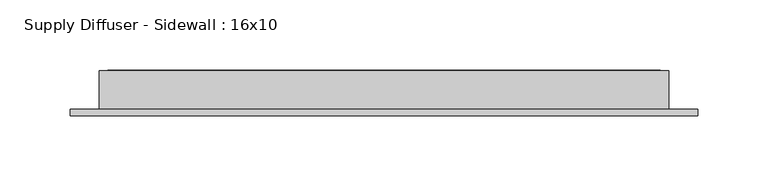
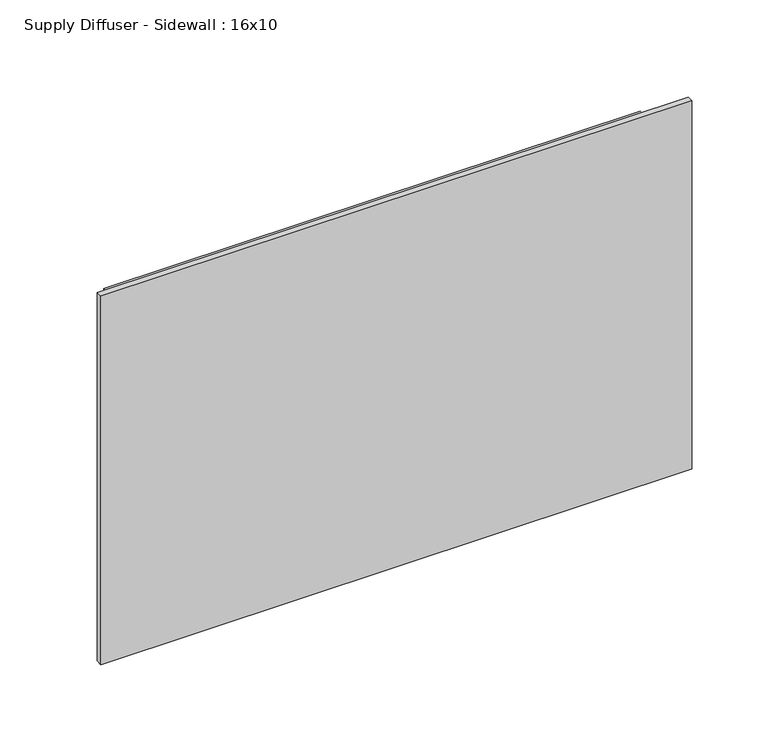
"""IFC4 building model written with IfcOpenShell, lengths in millimetres: air terminal geometry, Supply Diffuser - Sidewall : 16x10."""

from ifc_helpers import new_model, si_unit, origin, place, context, project, spatial, faceted_brep, source, transform, mapped, element, save


def supply_diffuser_sidewall_16x10_d44e3353(model_context):
    return source(origin(), model_context, "Body", "Brep", [
        faceted_brep([(223.8375, -4.7625, 147.6375), (-223.8375, -4.7625, 147.6375), (-223.8375, -4.7625, -147.6375), (223.8375, -4.7625, -147.6375), (223.8375, 0.0, 147.6375), (223.8375, 0.0, -147.6375), (-223.8375, 0.0, -147.6375), (-223.8375, 0.0, 147.6375), (-203.2, 0.0, 127.0), (-203.2, 0.0, -127.0), (203.2, 0.0, -127.0), (203.2, 0.0, 127.0), (-203.2, 27.384375, 127.0), (203.2, 27.384375, 127.0), (203.2, 27.384375, -127.0), (-203.2, 27.384375, -127.0), (-196.85, 27.384375, 120.65), (-196.85, 27.384375, -120.65), (196.85, 27.384375, -120.65), (196.85, 27.384375, 120.65), (-196.85, 27.78125, 120.65), (196.85, 27.78125, 120.65), (196.85, 27.78125, -120.65), (-196.85, 27.78125, -120.65)], [[[0, 1, 2, 3]], [[4, 5, 6, 7], [8, 9, 10, 11]], [[1, 0, 4, 7]], [[2, 1, 7, 6]], [[3, 2, 6, 5]], [[0, 3, 5, 4]], [[12, 13, 14, 15], [16, 17, 18, 19]], [[12, 15, 9, 8]], [[15, 14, 10, 9]], [[14, 13, 11, 10]], [[13, 12, 8, 11]], [[20, 21, 22, 23]], [[20, 23, 17, 16]], [[23, 22, 18, 17]], [[22, 21, 19, 18]], [[21, 20, 16, 19]]]),
    ])


if __name__ == "__main__":
    model = new_model("IFC4")
    model_context = context("Model", 3, world=origin())
    ifc_project = project(units=[si_unit("LENGTHUNIT", "METRE", prefix="MILLI")], contexts=[model_context])
    site = spatial("IfcSite", under=ifc_project)
    building = spatial("IfcBuilding", under=site)
    placement = place(None, origin())
    supply_diffuser_sidewall_16x10_shape = supply_diffuser_sidewall_16x10_d44e3353(model_context)
    element("IfcAirTerminal", 1, ObjectType="Supply Diffuser - Sidewall : 16x10", at=placement, inside=building, context=model_context, shape_type="MappedRepresentation", body=[
        mapped(supply_diffuser_sidewall_16x10_shape, transform((0.0, 0.0, 0.0), x_axis=(1.0, 0.0, 0.0), y_axis=(0.0, 1.0, 0.0), z_axis=(0.0, 0.0, 1.0))),
    ])
    save(model, "model.ifc")
